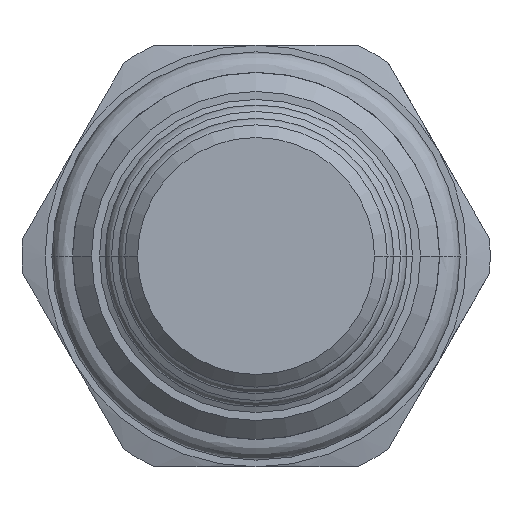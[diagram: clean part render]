
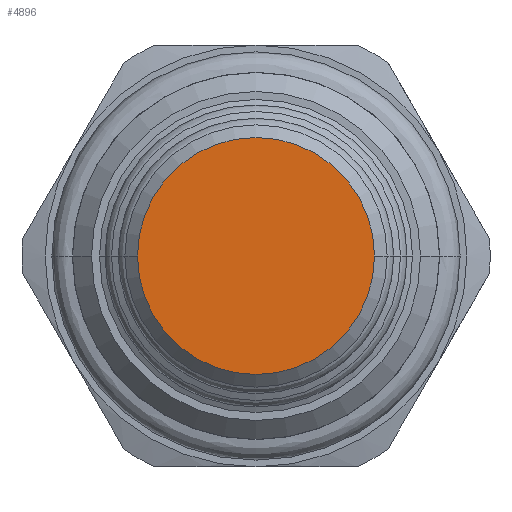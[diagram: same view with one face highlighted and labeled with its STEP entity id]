
A CAD part, front view. The second image highlights one B-rep face of the part: STEP entity #4896.
In plain terms, the highlighted planar face has unit normal (0, -1, 0).
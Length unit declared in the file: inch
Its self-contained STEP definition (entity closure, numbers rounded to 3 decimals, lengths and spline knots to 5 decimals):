
#2304=CARTESIAN_POINT('',(0.,-1.81277,0.));
#2305=DIRECTION('',(0.,-1.,0.));
#2306=DIRECTION('',(-1.,0.,0.));
#2307=AXIS2_PLACEMENT_3D('',#2304,#2305,#2306);
#2322=CARTESIAN_POINT('',(0.,-1.81277,0.));
#2323=DIRECTION('',(0.,1.,0.));
#2324=DIRECTION('',(-1.,0.,0.));
#2325=AXIS2_PLACEMENT_3D('',#2322,#2323,#2324);
#2682=CARTESIAN_POINT('',(-0.281,-1.81277,0.));
#2683=CARTESIAN_POINT('',(0.281,-1.81277,0.));
#2684=VERTEX_POINT('',#2682);
#2685=VERTEX_POINT('',#2683);
#4886=CARTESIAN_POINT('',(0.,-1.81277,0.));
#4887=DIRECTION('',(0.,-1.,0.));
#4888=DIRECTION('',(-1.,0.,0.));
#4889=AXIS2_PLACEMENT_3D('',#4886,#4887,#4888);
#4890=PLANE('',#4889);
#4891=ORIENTED_EDGE('',*,*,#4876,.F.);
#4893=ORIENTED_EDGE('',*,*,#4892,.T.);
#4894=EDGE_LOOP('',(#4891,#4893));
#4895=FACE_OUTER_BOUND('',#4894,.F.);
#4896=ADVANCED_FACE('',(#4895),#4890,.T.);
#2308=CIRCLE('',#2307,0.281);
#2326=CIRCLE('',#2325,0.281);
#4876=EDGE_CURVE('',#2684,#2685,#2308,.T.);
#4892=EDGE_CURVE('',#2684,#2685,#2326,.T.);
